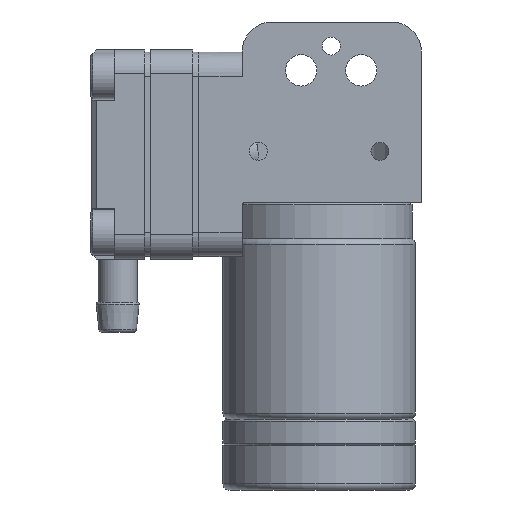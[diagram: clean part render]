
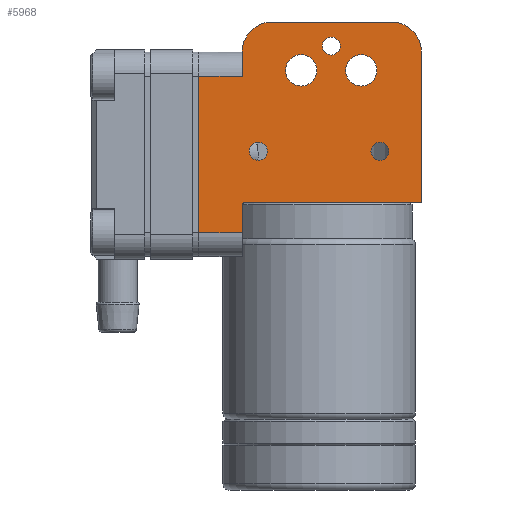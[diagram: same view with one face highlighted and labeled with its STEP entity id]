
A CAD part, front view. The second image highlights one B-rep face of the part: STEP entity #5968.
In plain terms, the highlighted planar face has unit normal (0, -1, 0).
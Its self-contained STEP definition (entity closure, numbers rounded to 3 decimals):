
#16 = FACE_BOUND ( 'NONE', #8019, .T. ) ;
#23 = AXIS2_PLACEMENT_3D ( 'NONE', #7590, #844, #906 ) ;
#54 = VECTOR ( 'NONE', #6756, 1000. ) ;
#119 = FACE_BOUND ( 'NONE', #865, .T. ) ;
#199 = ORIENTED_EDGE ( 'NONE', *, *, #4358, .F. ) ;
#271 = CARTESIAN_POINT ( 'NONE',  ( 13.4, -17., 19.5 ) ) ;
#338 = LINE ( 'NONE', #2810, #11956 ) ;
#414 = DIRECTION ( 'NONE',  ( 0., 1., 0. ) ) ;
#432 = ORIENTED_EDGE ( 'NONE', *, *, #4041, .F. ) ;
#570 = AXIS2_PLACEMENT_3D ( 'NONE', #9459, #7428, #11345 ) ;
#619 = CIRCLE ( 'NONE', #23, 1.3 ) ;
#675 = CARTESIAN_POINT ( 'NONE',  ( 1.6, -17., 8.75 ) ) ;
#686 = EDGE_CURVE ( 'NONE', #8030, #8030, #5200, .T. ) ;
#757 = CIRCLE ( 'NONE', #8809, 0.75 ) ;
#772 = CARTESIAN_POINT ( 'NONE',  ( 9.6, -17., 15.48 ) ) ;
#781 = CARTESIAN_POINT ( 'NONE',  ( 15.9, -17., 4.5 ) ) ;
#826 = AXIS2_PLACEMENT_3D ( 'NONE', #10166, #830, #7284 ) ;
#830 = DIRECTION ( 'NONE',  ( 0., 1., 0. ) ) ;
#831 = CARTESIAN_POINT ( 'NONE',  ( 2.35, -17., 8.75 ) ) ;
#844 = DIRECTION ( 'NONE',  ( 0., 1., 0. ) ) ;
#865 = EDGE_LOOP ( 'NONE', ( #2864 ) ) ;
#906 = DIRECTION ( 'NONE',  ( -1., 0., 0. ) ) ;
#918 = FACE_BOUND ( 'NONE', #8764, .T. ) ;
#1246 = CIRCLE ( 'NONE', #9492, 1.3 ) ;
#1294 = LINE ( 'NONE', #7913, #10907 ) ;
#1460 = LINE ( 'NONE', #8752, #7585 ) ;
#1468 = CARTESIAN_POINT ( 'NONE',  ( 11.7, -17., 8.75 ) ) ;
#1556 = DIRECTION ( 'NONE',  ( -1., 0., 0. ) ) ;
#1633 = EDGE_CURVE ( 'NONE', #8086, #6019, #9548, .T. ) ;
#1963 = DIRECTION ( 'NONE',  ( 1., 0., 0. ) ) ;
#1995 = AXIS2_PLACEMENT_3D ( 'NONE', #11365, #4625, #7556 ) ;
#2057 = EDGE_CURVE ( 'NONE', #10513, #6706, #2463, .T. ) ;
#2153 = EDGE_CURVE ( 'NONE', #5738, #11371, #10322, .T. ) ;
#2195 = LINE ( 'NONE', #7541, #3977 ) ;
#2242 = ORIENTED_EDGE ( 'NONE', *, *, #686, .T. ) ;
#2332 = ORIENTED_EDGE ( 'NONE', *, *, #5033, .F. ) ;
#2349 = VERTEX_POINT ( 'NONE', #772 ) ;
#2365 = EDGE_CURVE ( 'NONE', #5272, #5272, #5791, .T. ) ;
#2463 = LINE ( 'NONE', #5296, #11493 ) ;
#2568 = ORIENTED_EDGE ( 'NONE', *, *, #3253, .T. ) ;
#2715 = VERTEX_POINT ( 'NONE', #8569 ) ;
#2810 = CARTESIAN_POINT ( 'NONE',  ( 1., -17., -3.64 ) ) ;
#2864 = ORIENTED_EDGE ( 'NONE', *, *, #7044, .T. ) ;
#2997 = VECTOR ( 'NONE', #7921, 1000. ) ;
#3065 = ORIENTED_EDGE ( 'NONE', *, *, #8092, .T. ) ;
#3249 = LINE ( 'NONE', #9780, #54 ) ;
#3250 = DIRECTION ( 'NONE',  ( 0., 0., 1. ) ) ;
#3253 = EDGE_CURVE ( 'NONE', #2715, #2715, #757, .T. ) ;
#3453 = ORIENTED_EDGE ( 'NONE', *, *, #6660, .F. ) ;
#3471 = ORIENTED_EDGE ( 'NONE', *, *, #2153, .T. ) ;
#3502 = ORIENTED_EDGE ( 'NONE', *, *, #8478, .F. ) ;
#3825 = ORIENTED_EDGE ( 'NONE', *, *, #11952, .F. ) ;
#3977 = VECTOR ( 'NONE', #7600, 1000. ) ;
#4041 = EDGE_CURVE ( 'NONE', #6139, #11421, #4529, .T. ) ;
#4136 = DIRECTION ( 'NONE',  ( -1., 0., 0. ) ) ;
#4358 = EDGE_CURVE ( 'NONE', #6019, #7949, #2195, .T. ) ;
#4479 = CARTESIAN_POINT ( 'NONE',  ( 1., -17., 17. ) ) ;
#4529 = CIRCLE ( 'NONE', #826, 2.5 ) ;
#4546 = FACE_BOUND ( 'NONE', #11119, .T. ) ;
#4625 = DIRECTION ( 'NONE',  ( 0., 1., 0. ) ) ;
#4699 = DIRECTION ( 'NONE',  ( -1., 0., 0. ) ) ;
#4783 = FACE_BOUND ( 'NONE', #6909, .T. ) ;
#4836 = CARTESIAN_POINT ( 'NONE',  ( 15.9, -17., 17. ) ) ;
#4892 = ORIENTED_EDGE ( 'NONE', *, *, #1633, .F. ) ;
#4910 = CARTESIAN_POINT ( 'NONE',  ( -1.6, -17., 2. ) ) ;
#4930 = CARTESIAN_POINT ( 'NONE',  ( -2.6, -17., 2. ) ) ;
#4987 = EDGE_CURVE ( 'NONE', #7451, #9468, #5900, .T. ) ;
#5033 = EDGE_CURVE ( 'NONE', #11421, #8086, #3249, .T. ) ;
#5162 = DIRECTION ( 'NONE',  ( 0., 0., 1. ) ) ;
#5194 = DIRECTION ( 'NONE',  ( 0., 1., 0. ) ) ;
#5200 = CIRCLE ( 'NONE', #11073, 0.75 ) ;
#5272 = VERTEX_POINT ( 'NONE', #1468 ) ;
#5296 = CARTESIAN_POINT ( 'NONE',  ( -1.6, -17., 15. ) ) ;
#5738 = VERTEX_POINT ( 'NONE', #4930 ) ;
#5791 = CIRCLE ( 'NONE', #9365, 0.75 ) ;
#5833 = ORIENTED_EDGE ( 'NONE', *, *, #2365, .T. ) ;
#5900 = CIRCLE ( 'NONE', #1995, 0.2 ) ;
#5968 = ADVANCED_FACE ( 'NONE', ( #6379, #4783, #4546, #16, #119, #918 ), #9343, .F. ) ;
#6019 = VERTEX_POINT ( 'NONE', #4836 ) ;
#6135 = ORIENTED_EDGE ( 'NONE', *, *, #11922, .T. ) ;
#6139 = VERTEX_POINT ( 'NONE', #4479 ) ;
#6379 = FACE_OUTER_BOUND ( 'NONE', #10581, .T. ) ;
#6660 = EDGE_CURVE ( 'NONE', #5738, #6706, #1294, .T. ) ;
#6706 = VERTEX_POINT ( 'NONE', #10929 ) ;
#6715 = DIRECTION ( 'NONE',  ( 0., 1., 0. ) ) ;
#6756 = DIRECTION ( 'NONE',  ( 1., 0., 0. ) ) ;
#6822 = CARTESIAN_POINT ( 'NONE',  ( 1., -17., 15. ) ) ;
#6909 = EDGE_LOOP ( 'NONE', ( #2568 ) ) ;
#7044 = EDGE_CURVE ( 'NONE', #9560, #9560, #619, .T. ) ;
#7284 = DIRECTION ( 'NONE',  ( 1., 0., 0. ) ) ;
#7353 = CARTESIAN_POINT ( 'NONE',  ( 1., -17., 2. ) ) ;
#7428 = DIRECTION ( 'NONE',  ( 0., 1., 0. ) ) ;
#7451 = VERTEX_POINT ( 'NONE', #10395 ) ;
#7541 = CARTESIAN_POINT ( 'NONE',  ( 15.9, -17., 6.8 ) ) ;
#7556 = DIRECTION ( 'NONE',  ( -1., 0., 0. ) ) ;
#7585 = VECTOR ( 'NONE', #11775, 1000. ) ;
#7590 = CARTESIAN_POINT ( 'NONE',  ( 5.9, -17., 15.48 ) ) ;
#7600 = DIRECTION ( 'NONE',  ( 0., 0., -1. ) ) ;
#7913 = CARTESIAN_POINT ( 'NONE',  ( -2.6, -17., 2. ) ) ;
#7921 = DIRECTION ( 'NONE',  ( -1., 0., 0. ) ) ;
#7949 = VERTEX_POINT ( 'NONE', #781 ) ;
#8019 = EDGE_LOOP ( 'NONE', ( #6135 ) ) ;
#8030 = VERTEX_POINT ( 'NONE', #675 ) ;
#8086 = VERTEX_POINT ( 'NONE', #271 ) ;
#8092 = EDGE_CURVE ( 'NONE', #11371, #7451, #338, .T. ) ;
#8478 = EDGE_CURVE ( 'NONE', #10513, #6139, #1460, .T. ) ;
#8505 = ORIENTED_EDGE ( 'NONE', *, *, #4987, .T. ) ;
#8569 = CARTESIAN_POINT ( 'NONE',  ( 7.65, -17., 17.5 ) ) ;
#8620 = CARTESIAN_POINT ( 'NONE',  ( 1.2, -17., 4.5 ) ) ;
#8752 = CARTESIAN_POINT ( 'NONE',  ( 1., -17., 8.926 ) ) ;
#8764 = EDGE_LOOP ( 'NONE', ( #5833 ) ) ;
#8809 = AXIS2_PLACEMENT_3D ( 'NONE', #9373, #6715, #4699 ) ;
#8820 = DIRECTION ( 'NONE',  ( -1., 0., 0. ) ) ;
#8821 = DIRECTION ( 'NONE',  ( -1., 0., 0. ) ) ;
#8885 = CARTESIAN_POINT ( 'NONE',  ( 13.4, -17., 17. ) ) ;
#8964 = AXIS2_PLACEMENT_3D ( 'NONE', #8885, #5194, #8820 ) ;
#9087 = DIRECTION ( 'NONE',  ( 0., 1., 0. ) ) ;
#9343 = PLANE ( 'NONE',  #570 ) ;
#9365 = AXIS2_PLACEMENT_3D ( 'NONE', #9938, #9087, #8821 ) ;
#9373 = CARTESIAN_POINT ( 'NONE',  ( 8.4, -17., 17.5 ) ) ;
#9459 = CARTESIAN_POINT ( 'NONE',  ( -1.6, -17., 0. ) ) ;
#9468 = VERTEX_POINT ( 'NONE', #8620 ) ;
#9492 = AXIS2_PLACEMENT_3D ( 'NONE', #9728, #414, #4136 ) ;
#9548 = CIRCLE ( 'NONE', #8964, 2.5 ) ;
#9560 = VERTEX_POINT ( 'NONE', #10582 ) ;
#9621 = CARTESIAN_POINT ( 'NONE',  ( 3.5, -17., 19.5 ) ) ;
#9728 = CARTESIAN_POINT ( 'NONE',  ( 10.9, -17., 15.48 ) ) ;
#9780 = CARTESIAN_POINT ( 'NONE',  ( 13.4, -17., 19.5 ) ) ;
#9938 = CARTESIAN_POINT ( 'NONE',  ( 12.45, -17., 8.75 ) ) ;
#10166 = CARTESIAN_POINT ( 'NONE',  ( 3.5, -17., 17. ) ) ;
#10322 = LINE ( 'NONE', #4910, #11700 ) ;
#10395 = CARTESIAN_POINT ( 'NONE',  ( 1., -17., 4.3 ) ) ;
#10513 = VERTEX_POINT ( 'NONE', #6822 ) ;
#10581 = EDGE_LOOP ( 'NONE', ( #3502, #11633, #3453, #3471, #3065, #8505, #3825, #199, #4892, #2332, #432 ) ) ;
#10582 = CARTESIAN_POINT ( 'NONE',  ( 4.6, -17., 15.48 ) ) ;
#10907 = VECTOR ( 'NONE', #5162, 1000. ) ;
#10929 = CARTESIAN_POINT ( 'NONE',  ( -2.6, -17., 15. ) ) ;
#10985 = LINE ( 'NONE', #11630, #2997 ) ;
#11073 = AXIS2_PLACEMENT_3D ( 'NONE', #831, #11312, #11079 ) ;
#11079 = DIRECTION ( 'NONE',  ( -1., 0., 0. ) ) ;
#11119 = EDGE_LOOP ( 'NONE', ( #2242 ) ) ;
#11312 = DIRECTION ( 'NONE',  ( 0., 1., 0. ) ) ;
#11345 = DIRECTION ( 'NONE',  ( -1., 0., 0. ) ) ;
#11365 = CARTESIAN_POINT ( 'NONE',  ( 1.2, -17., 4.3 ) ) ;
#11371 = VERTEX_POINT ( 'NONE', #7353 ) ;
#11421 = VERTEX_POINT ( 'NONE', #9621 ) ;
#11493 = VECTOR ( 'NONE', #1556, 1000. ) ;
#11630 = CARTESIAN_POINT ( 'NONE',  ( 50.555, -17., 4.5 ) ) ;
#11633 = ORIENTED_EDGE ( 'NONE', *, *, #2057, .T. ) ;
#11700 = VECTOR ( 'NONE', #1963, 1000. ) ;
#11775 = DIRECTION ( 'NONE',  ( 0., 0., 1. ) ) ;
#11922 = EDGE_CURVE ( 'NONE', #2349, #2349, #1246, .T. ) ;
#11952 = EDGE_CURVE ( 'NONE', #7949, #9468, #10985, .T. ) ;
#11956 = VECTOR ( 'NONE', #3250, 1000. ) ;
